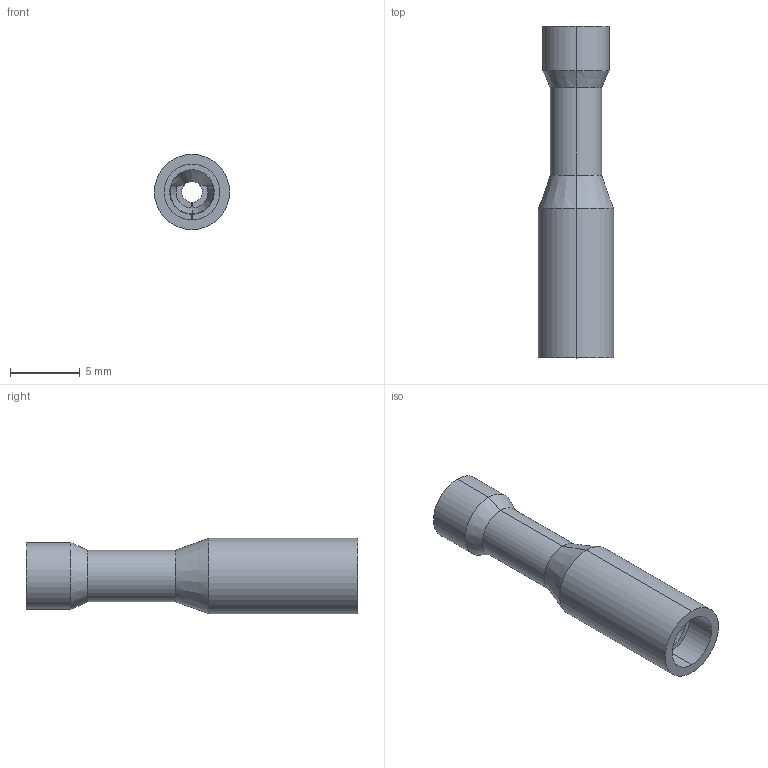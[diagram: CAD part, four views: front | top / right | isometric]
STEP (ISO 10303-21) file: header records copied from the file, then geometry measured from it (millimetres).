
FILE_DESCRIPTION (( 'STEP AP214' ), '1' );
FILE_NAME ('278078 OptiKit S-Shm-PVC-2-5-4.STEP', '2020-02-19T11:21:07', ( '' ), ( '' ), 'SwSTEP 2.0', 'SolidWorks 2018', '' );
FILE_SCHEMA (( 'AUTOMOTIVE_DESIGN' ));
Length unit declared in the file: millimetre
Products named in the file (3): 278078 OptiKit S-Shm-PVC-2-5-4; 朽琥屐 续褥 2-5-4; Îïëåòêà 2
Assembly tree (2 placements, depth 2):
  278078 OptiKit S-Shm-PVC-2-5-4
    Îïëåòêà 2
    朽琥屐 续褥 2-5-4
Bounding box: 5.4 x 23.8 x 5.4 mm (x, y, z)
Volume: 267.1 mm3; surface area: 924.2 mm2
Topology: 2 solids, 2 shells, 40 faces, 88 edges, 52 vertices
Faces by surface type: cylinder 16, plane 14, cone 10
Entity records: 1216 total; most frequent: DIRECTION 212, CARTESIAN_POINT 207, ORIENTED_EDGE 176, EDGE_CURVE 88, AXIS2_PLACEMENT_3D 85, VERTEX_POINT 52, EDGE_LOOP 42, VECTOR 42
